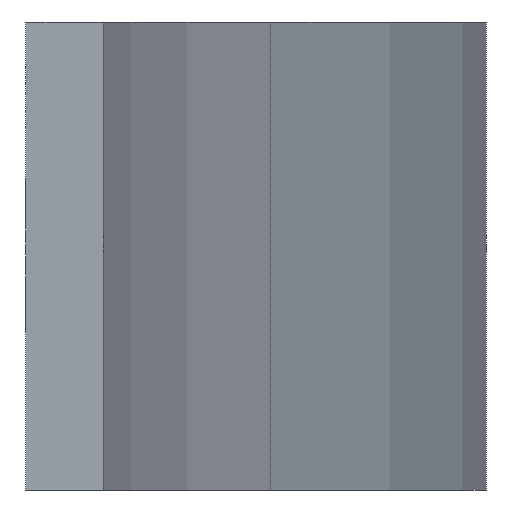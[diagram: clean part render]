
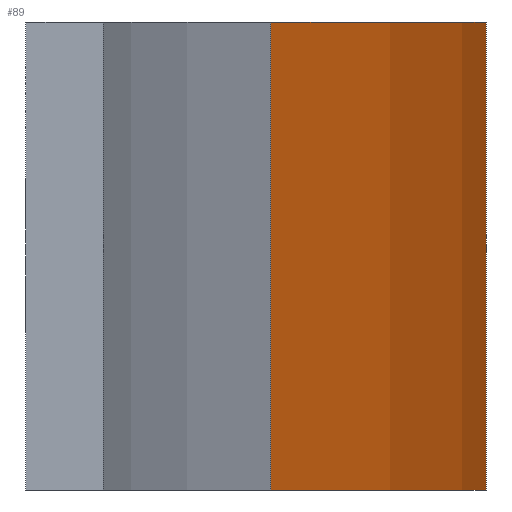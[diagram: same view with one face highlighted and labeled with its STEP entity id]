
A CAD part, left-side view. The second image highlights one B-rep face of the part: STEP entity #89.
In plain terms, the highlighted cylindrical face has radius 179.4 mm (diameter 358.8 mm), a partial arc.
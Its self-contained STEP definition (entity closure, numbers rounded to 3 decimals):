
#89 = ADVANCED_FACE( '', ( #129 ), #130, .T. );
#129 = FACE_OUTER_BOUND( '', #181, .T. );
#130 = CYLINDRICAL_SURFACE( '', #182, 179.4 );
#181 = EDGE_LOOP( '', ( #299, #300, #301, #302 ) );
#182 = AXIS2_PLACEMENT_3D( '', #303, #304, #305 );
#299 = ORIENTED_EDGE( '', *, *, #443, .T. );
#300 = ORIENTED_EDGE( '', *, *, #444, .F. );
#301 = ORIENTED_EDGE( '', *, *, #445, .F. );
#302 = ORIENTED_EDGE( '', *, *, #440, .T. );
#303 = CARTESIAN_POINT( '', ( 80., 149.9, 15. ) );
#304 = DIRECTION( '', ( 0., 0., 1. ) );
#305 = DIRECTION( '', ( -0.385, -0.923, 0. ) );
#440 = EDGE_CURVE( '', #529, #527, #530, .T. );
#443 = EDGE_CURVE( '', #527, #534, #535, .T. );
#444 = EDGE_CURVE( '', #536, #534, #537, .T. );
#445 = EDGE_CURVE( '', #529, #536, #538, .T. );
#527 = VERTEX_POINT( '', #651 );
#529 = VERTEX_POINT( '', #653 );
#530 = LINE( '', #654, #655 );
#534 = VERTEX_POINT( '', #660 );
#535 = CIRCLE( '', #661, 179.4 );
#536 = VERTEX_POINT( '', #662 );
#537 = LINE( '', #663, #664 );
#538 = CIRCLE( '', #665, 179.4 );
#651 = CARTESIAN_POINT( '', ( 10.977, -15.691, -15. ) );
#653 = CARTESIAN_POINT( '', ( 10.977, -15.691, 15. ) );
#654 = CARTESIAN_POINT( '', ( 10.977, -15.691, 15. ) );
#655 = VECTOR( '', #782, 1. );
#660 = CARTESIAN_POINT( '', ( 149.023, -15.691, -15. ) );
#661 = AXIS2_PLACEMENT_3D( '', #787, #788, #789 );
#662 = CARTESIAN_POINT( '', ( 149.023, -15.691, 15. ) );
#663 = CARTESIAN_POINT( '', ( 149.023, -15.691, 15. ) );
#664 = VECTOR( '', #790, 1. );
#665 = AXIS2_PLACEMENT_3D( '', #791, #792, #793 );
#782 = DIRECTION( '', ( 0., 0., -1. ) );
#787 = CARTESIAN_POINT( '', ( 80., 149.9, -15. ) );
#788 = DIRECTION( '', ( 0., 0., 1. ) );
#789 = DIRECTION( '', ( -0.385, -0.923, 0. ) );
#790 = DIRECTION( '', ( 0., 0., -1. ) );
#791 = CARTESIAN_POINT( '', ( 80., 149.9, 15. ) );
#792 = DIRECTION( '', ( 0., 0., 1. ) );
#793 = DIRECTION( '', ( -0.385, -0.923, 0. ) );
